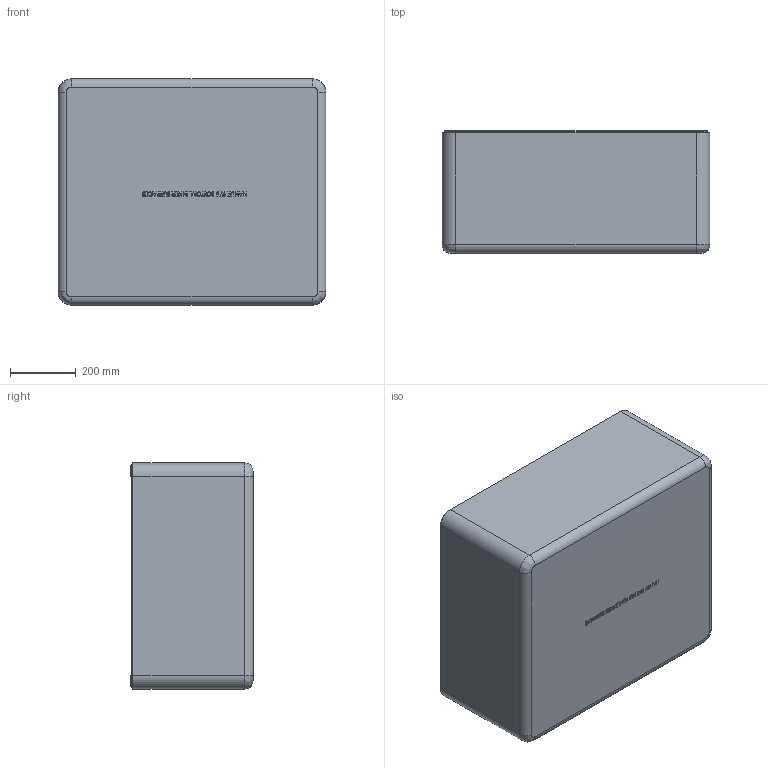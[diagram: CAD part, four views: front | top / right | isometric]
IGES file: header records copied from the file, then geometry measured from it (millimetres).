
Start section: SolidWorks IGES file using analytic representation for surfaces
Global section: file name: M:\NANUK\Solidworks\3D\Cases\976\4 - 3D FILES\5 - INNER SURFACES\NANUK 976 BOTTOM_Inner Surfaces.IGS; native system: SolidWorks 2022; preprocessor: SolidWorks 2022; author: jgauthier; date: 240710.131950; units: inch
Bounding box: 816.55 x 372.24 x 689.55 mm (x, y, z)
Surface area: 3140806.1 mm2 (no closed solid volume)
Topology: 0 solids, 0 shells, 2980 faces, 30194 edges, 30044 vertices
Faces by surface type: bspline 2118, revolution 862
